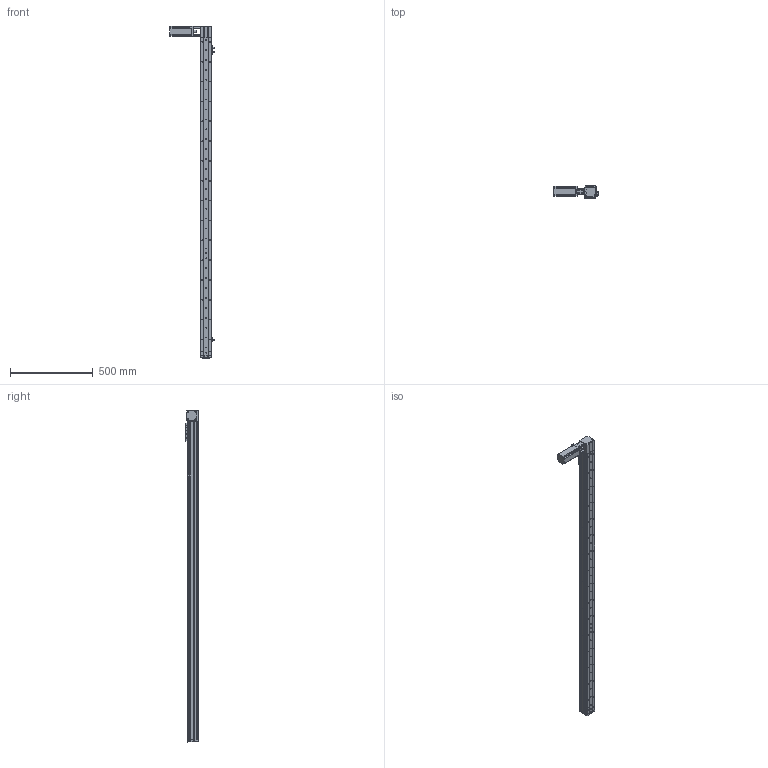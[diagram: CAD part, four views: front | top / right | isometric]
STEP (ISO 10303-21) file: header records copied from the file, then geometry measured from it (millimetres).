
FILE_DESCRIPTION (( 'STEP AP214' ), '1' );
FILE_NAME ('KSD68BS-S1750-MLT-CR.STEP', '2019-11-08T05:40:31', ( '微软用户' ), ( '微软中国' ), 'SwSTEP 2.0', 'SolidWorks 2014', '' );
FILE_SCHEMA (( 'AUTOMOTIVE_DESIGN' ));
Length unit declared in the file: millimetre
Products named in the file (13): 100遵鎮湛假蚾啣1; KSD68BS 1750行程盖板全封闭; 68遵裔啣揤啣1; 68宽单导轨全封闭丝杆传动安装板1防护罩; KSD68BS 1750行程侧板全封闭; 68宽单导轨全封闭同步带端板; 68单导轨全封闭同步带电机座右; 68单导轨全封闭同步带安装板; 感应片68宽全封闭; U倰嫖萇EEㄜSX672; 台达ECMA－C20604AS伺服电机（400W); KSD68BS 1750行程底板全封闭; KSD68BS-S1750-MLT-CR
Assembly tree (16 placements, depth 2):
  KSD68BS-S1750-MLT-CR
    KSD68BS 1750行程底板全封闭
    台达ECMA－C20604AS伺服电机（400W)
    U倰嫖萇EEㄜSX672  x3
    感应片68宽全封闭
    68单导轨全封闭同步带安装板
    68单导轨全封闭同步带电机座右
    68宽单导轨全封闭同步带端板
    KSD68BS 1750行程侧板全封闭  x2
    68宽单导轨全封闭丝杆传动安装板1防护罩
    68遵裔啣揤啣1  x2
    KSD68BS 1750行程盖板全封闭
    100遵鎮湛假蚾啣1
Bounding box: 266.4 x 77 x 2008.1 mm (x, y, z)
Volume: 3496250.8 mm3; surface area: 1410524.7 mm2
Topology: 17 solids, 17 shells, 1578 faces, 4570 edges, 2903 vertices
Faces by surface type: cylinder 778, plane 604, cone 196
Entity records: 51949 total; most frequent: CARTESIAN_POINT 9027, DIRECTION 7658, ORIENTED_EDGE 7328, EDGE_CURVE 3664, AXIS2_PLACEMENT_3D 2804, VERTEX_POINT 2401, VECTOR 2050, LINE 2050
